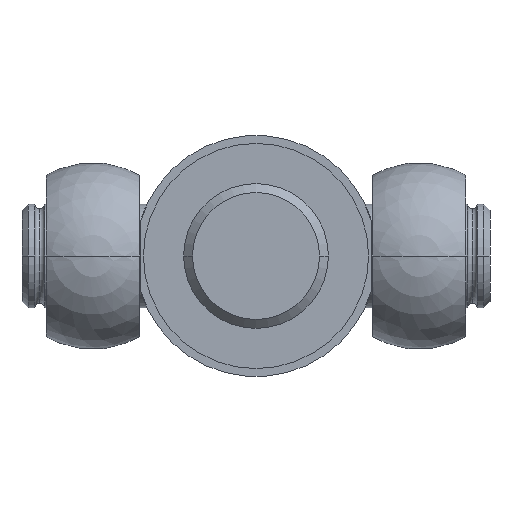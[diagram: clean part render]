
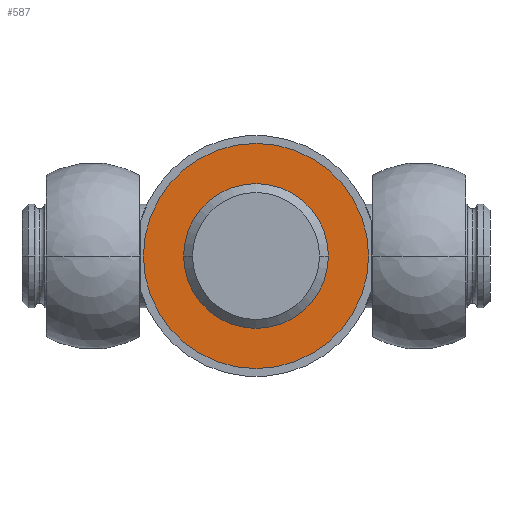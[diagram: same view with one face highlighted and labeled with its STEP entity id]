
A CAD part, front view. The second image highlights one B-rep face of the part: STEP entity #587.
In plain terms, the highlighted planar face has unit normal (0, -1, 0).
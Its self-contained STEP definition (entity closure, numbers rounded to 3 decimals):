
#521 = VERTEX_POINT( '', #1304 );
#563 = EDGE_CURVE( '', #521, #975, #1353, .T. );
#587 = ADVANCED_FACE( '', ( #1379, #1380 ), #1381, .T. );
#633 = VERTEX_POINT( '', #1431 );
#719 = VERTEX_POINT( '', #1523 );
#797 = EDGE_CURVE( '', #633, #719, #1608, .T. );
#801 = EDGE_CURVE( '', #975, #521, #1613, .T. );
#849 = EDGE_CURVE( '', #719, #633, #1668, .T. );
#975 = VERTEX_POINT( '', #1807 );
#1304 = CARTESIAN_POINT( '', ( -22.5, 0., 0. ) );
#1353 = CIRCLE( '', #2300, 22.5 );
#1379 = FACE_OUTER_BOUND( '', #2331, .T. );
#1380 = FACE_BOUND( '', #2332, .T. );
#1381 = PLANE( '', #2333 );
#1431 = CARTESIAN_POINT( '', ( -35., 0., 0. ) );
#1523 = CARTESIAN_POINT( '', ( 35., 0., 0. ) );
#1608 = CIRCLE( '', #2702, 35. );
#1613 = CIRCLE( '', #2708, 22.5 );
#1668 = CIRCLE( '', #2792, 35. );
#1807 = CARTESIAN_POINT( '', ( 22.5, 0., 0. ) );
#2300 = AXIS2_PLACEMENT_3D( '', #3533, #3534, #3535 );
#2331 = EDGE_LOOP( '', ( #3569, #3570 ) );
#2332 = EDGE_LOOP( '', ( #3571, #3572 ) );
#2333 = AXIS2_PLACEMENT_3D( '', #3573, #3574, #3575 );
#2702 = AXIS2_PLACEMENT_3D( '', #3816, #3817, #3818 );
#2708 = AXIS2_PLACEMENT_3D( '', #3828, #3829, #3830 );
#2792 = AXIS2_PLACEMENT_3D( '', #3909, #3910, #3911 );
#3533 = CARTESIAN_POINT( '', ( 0., 0., 0. ) );
#3534 = DIRECTION( '', ( 0., 1., 0. ) );
#3535 = DIRECTION( '', ( 1., 0., 0. ) );
#3569 = ORIENTED_EDGE( '', *, *, #849, .F. );
#3570 = ORIENTED_EDGE( '', *, *, #797, .F. );
#3571 = ORIENTED_EDGE( '', *, *, #801, .T. );
#3572 = ORIENTED_EDGE( '', *, *, #563, .T. );
#3573 = CARTESIAN_POINT( '', ( 28.75, 0., 0. ) );
#3574 = DIRECTION( '', ( 0., -1., 0. ) );
#3575 = DIRECTION( '', ( -1., 0., 0. ) );
#3816 = CARTESIAN_POINT( '', ( 0., 0., 0. ) );
#3817 = DIRECTION( '', ( 0., 1., 0. ) );
#3818 = DIRECTION( '', ( 1., 0., 0. ) );
#3828 = CARTESIAN_POINT( '', ( 0., 0., 0. ) );
#3829 = DIRECTION( '', ( 0., 1., 0. ) );
#3830 = DIRECTION( '', ( 1., 0., 0. ) );
#3909 = CARTESIAN_POINT( '', ( 0., 0., 0. ) );
#3910 = DIRECTION( '', ( 0., 1., 0. ) );
#3911 = DIRECTION( '', ( 1., 0., 0. ) );
